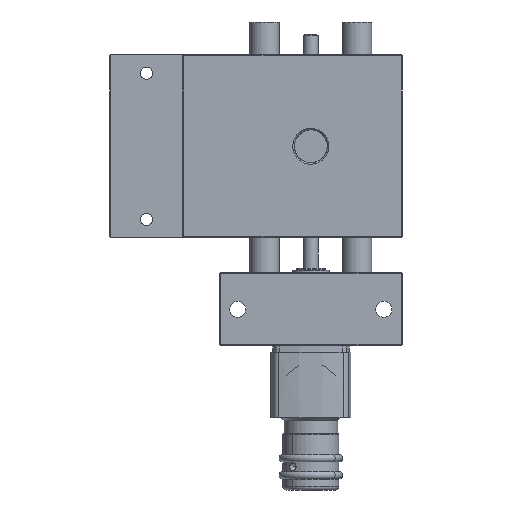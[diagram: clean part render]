
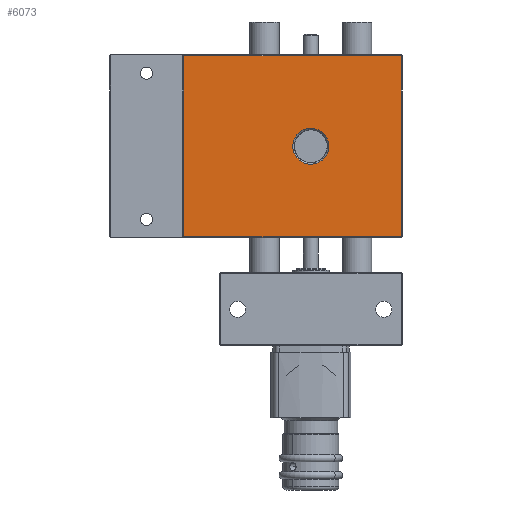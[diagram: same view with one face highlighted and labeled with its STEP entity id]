
A CAD part, front view. The second image highlights one B-rep face of the part: STEP entity #6073.
In plain terms, the highlighted planar face has unit normal (0, -1, 0).
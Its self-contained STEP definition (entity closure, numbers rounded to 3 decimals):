
#3 = DIRECTION ( 'NONE',  ( 1., 0., 0. ) ) ;
#655 = CARTESIAN_POINT ( 'NONE',  ( -37.1, -10., -37.5 ) ) ;
#691 = ORIENTED_EDGE ( 'NONE', *, *, #7068, .T. ) ;
#1136 = CARTESIAN_POINT ( 'NONE',  ( 7.4, -10., 0. ) ) ;
#1573 = LINE ( 'NONE', #6706, #5915 ) ;
#1818 = VECTOR ( 'NONE', #15377, 1000. ) ;
#1928 = EDGE_CURVE ( 'NONE', #23815, #20210, #1573, .T. ) ;
#2757 = VERTEX_POINT ( 'NONE', #11948 ) ;
#2848 = CARTESIAN_POINT ( 'NONE',  ( -37.5, -10., -37.5 ) ) ;
#3033 = DIRECTION ( 'NONE',  ( -1., 0., 0. ) ) ;
#3118 = FACE_OUTER_BOUND ( 'NONE', #17750, .T. ) ;
#3548 = EDGE_CURVE ( 'NONE', #22423, #5382, #23422, .T. ) ;
#3812 = CARTESIAN_POINT ( 'NONE',  ( 52.1, -10., -37.5 ) ) ;
#3987 = CIRCLE ( 'NONE', #12546, 7.4 ) ;
#4405 = CIRCLE ( 'NONE', #17604, 7.4 ) ;
#5138 = CARTESIAN_POINT ( 'NONE',  ( -37.1, -10., -37.1 ) ) ;
#5382 = VERTEX_POINT ( 'NONE', #15610 ) ;
#5915 = VECTOR ( 'NONE', #3033, 1000. ) ;
#6073 = ADVANCED_FACE ( 'NONE', ( #12931, #3118 ), #10185, .F. ) ;
#6341 = EDGE_CURVE ( 'NONE', #2757, #13152, #3987, .T. ) ;
#6706 = CARTESIAN_POINT ( 'NONE',  ( -37.5, -10., 37.1 ) ) ;
#7068 = EDGE_CURVE ( 'NONE', #5382, #23815, #18641, .T. ) ;
#7954 = ORIENTED_EDGE ( 'NONE', *, *, #9598, .T. ) ;
#8267 = CARTESIAN_POINT ( 'NONE',  ( 0., -10., 0. ) ) ;
#8430 = DIRECTION ( 'NONE',  ( 1., 0., 0. ) ) ;
#8855 = VECTOR ( 'NONE', #9399, 1000. ) ;
#9395 = ORIENTED_EDGE ( 'NONE', *, *, #10953, .T. ) ;
#9399 = DIRECTION ( 'NONE',  ( 0., 0., 1. ) ) ;
#9598 = EDGE_CURVE ( 'NONE', #20210, #22423, #12208, .T. ) ;
#10119 = DIRECTION ( 'NONE',  ( 1., 0., 0. ) ) ;
#10185 = PLANE ( 'NONE',  #20447 ) ;
#10215 = ORIENTED_EDGE ( 'NONE', *, *, #3548, .T. ) ;
#10953 = EDGE_CURVE ( 'NONE', #13152, #2757, #4405, .T. ) ;
#10992 = DIRECTION ( 'NONE',  ( 0., 1., 0. ) ) ;
#11037 = CARTESIAN_POINT ( 'NONE',  ( -37.5, -10., -37.1 ) ) ;
#11168 = ORIENTED_EDGE ( 'NONE', *, *, #6341, .T. ) ;
#11948 = CARTESIAN_POINT ( 'NONE',  ( -7.4, -10., 0. ) ) ;
#12208 = LINE ( 'NONE', #655, #1818 ) ;
#12546 = AXIS2_PLACEMENT_3D ( 'NONE', #22030, #10992, #23876 ) ;
#12931 = FACE_BOUND ( 'NONE', #15160, .T. ) ;
#13152 = VERTEX_POINT ( 'NONE', #1136 ) ;
#13594 = VECTOR ( 'NONE', #3, 1000. ) ;
#14066 = ORIENTED_EDGE ( 'NONE', *, *, #1928, .T. ) ;
#15160 = EDGE_LOOP ( 'NONE', ( #11168, #9395 ) ) ;
#15377 = DIRECTION ( 'NONE',  ( 0., 0., -1. ) ) ;
#15610 = CARTESIAN_POINT ( 'NONE',  ( 52.1, -10., -37.1 ) ) ;
#15868 = CARTESIAN_POINT ( 'NONE',  ( 52.1, -10., 37.1 ) ) ;
#17604 = AXIS2_PLACEMENT_3D ( 'NONE', #8267, #21147, #10119 ) ;
#17750 = EDGE_LOOP ( 'NONE', ( #691, #14066, #7954, #10215 ) ) ;
#18641 = LINE ( 'NONE', #3812, #8855 ) ;
#19451 = DIRECTION ( 'NONE',  ( 0., 1., 0. ) ) ;
#20210 = VERTEX_POINT ( 'NONE', #23658 ) ;
#20447 = AXIS2_PLACEMENT_3D ( 'NONE', #2848, #19451, #8430 ) ;
#21147 = DIRECTION ( 'NONE',  ( 0., 1., 0. ) ) ;
#22030 = CARTESIAN_POINT ( 'NONE',  ( 0., -10., 0. ) ) ;
#22423 = VERTEX_POINT ( 'NONE', #5138 ) ;
#23422 = LINE ( 'NONE', #11037, #13594 ) ;
#23658 = CARTESIAN_POINT ( 'NONE',  ( -37.1, -10., 37.1 ) ) ;
#23815 = VERTEX_POINT ( 'NONE', #15868 ) ;
#23876 = DIRECTION ( 'NONE',  ( 1., 0., 0. ) ) ;
